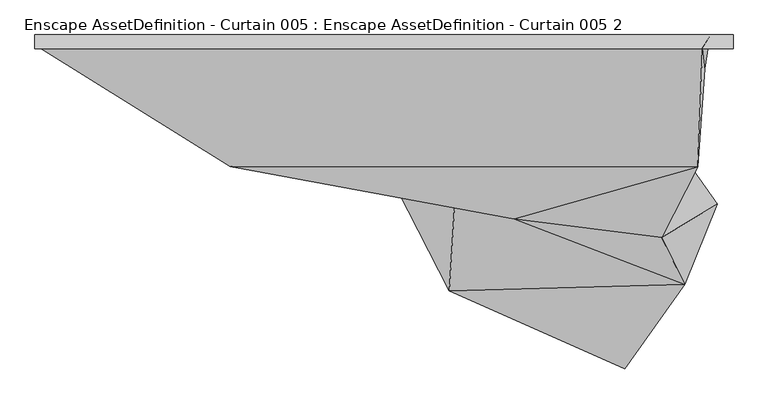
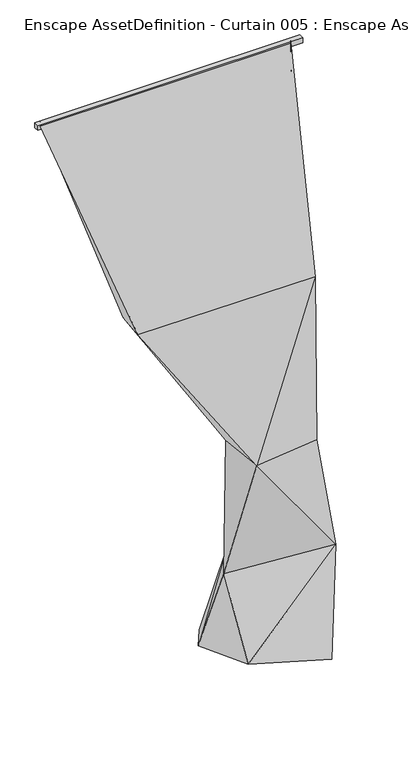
"""IFC4 building model written with IfcOpenShell, lengths in millimetres: geographic element geometry, Enscape AssetDefinition - Curtain 005 : Enscape AssetDefinition - Curtain 005 2."""

from ifc_helpers import new_model, si_unit, origin, place, context, project, spatial, triangles, source, transform, mapped, element, save


def enscape_assetdefinition_curtain_005_enscape_assetdefinition_7c1d9668(model_context):
    return source(origin(), model_context, "Body", "Tessellation", [
        triangles([(10.5911515, -381.2097982, 0.0001014), (365.2563752, -515.6965384, 1363.279723), (203.8854838, -371.7660796, 489.5501693), (380.5031553, -111.298003, 480.332527), (105.5091667, -228.3690911, 0.0001014), (410.2852037, -337.2499815, 0.0001014), (933.2197815, -474.562603, 636.9538536), (777.5139513, -568.0174001, 1451.4602417), (342.7682857, -153.8939858, 1349.3337719), (816.015671, -307.992029, 1449.8325794), (841.9063871, -699.721534, 695.6191681), (878.6032751, -369.9957298, 2570.0315002), (891.7764536, -37.5198256, 4195.8232521), (898.31479, -94.5129356, 2560.8137489), (911.5875263, -5.924891, 4195.8232521), (-941.7821949, -5.924891, 4195.8232521), (-410.0674118, -151.467744, 2567.3037598), (-961.5935583, -37.5198256, 4195.8232521), (-429.9786964, -369.2442132, 2576.5218018), (674.4212614, -935.6376572, 0.0001014), (182.7743088, -717.5035154, 0.0001014), (757.1194839, -724.8400589, 0.0001014), (-977.0554052, -38.5390039, 4161.2175156), (977.4649733, -38.539072, 4200.000032), (-977.0554052, -0.4621512, 4199.99916), (-977.0554052, -0.4621512, 4161.2175156), (977.4649733, -0.4621512, 4161.2178062), (977.4649733, -0.4621512, 4200.000032), (-977.0554052, -38.5390039, 4199.99916), (977.4649733, -38.539072, 4161.2178062)], [[28, 27, 26], [24, 28, 25], [30, 24, 29], [27, 30, 23], [26, 23, 29], [27, 28, 24], [28, 26, 25], [24, 25, 29], [30, 29, 23], [27, 23, 26], [26, 29, 25], [27, 24, 30], [22, 20, 21], [21, 20, 11], [22, 11, 20], [15, 16, 18], [15, 18, 13], [13, 18, 19], [16, 19, 18], [16, 17, 19], [15, 17, 16], [17, 2, 19], [15, 14, 17], [14, 15, 13], [12, 19, 2], [14, 13, 12], [12, 13, 19], [11, 8, 2], [8, 12, 2], [10, 14, 12], [10, 12, 8], [9, 17, 14], [17, 9, 2], [9, 14, 10], [7, 10, 8], [22, 7, 11], [10, 7, 9], [7, 8, 11], [7, 22, 6], [6, 22, 21], [21, 5, 6], [7, 4, 9], [4, 7, 6], [5, 4, 6], [9, 4, 3], [21, 11, 3], [9, 3, 2], [11, 2, 3], [4, 5, 1], [4, 1, 3], [5, 21, 1], [1, 21, 3]]),
    ])


if __name__ == "__main__":
    model = new_model("IFC4")
    model_context = context("Model", 3, world=origin())
    ifc_project = project(units=[si_unit("LENGTHUNIT", "METRE", prefix="MILLI")], contexts=[model_context])
    site = spatial("IfcSite", under=ifc_project)
    building = spatial("IfcBuilding", under=site)
    placement = place(None, origin())
    enscape_assetdefinition_curtain_005_enscape_assetdefinition_shape = enscape_assetdefinition_curtain_005_enscape_assetdefinition_7c1d9668(model_context)
    element("IfcGeographicElement", 1, ObjectType="Enscape AssetDefinition - Curtain 005 : Enscape AssetDefinition - Curtain 005 2", at=placement, inside=building, context=model_context, shape_type="MappedRepresentation", body=[
        mapped(enscape_assetdefinition_curtain_005_enscape_assetdefinition_shape, transform((0.0, 0.0, 0.0), x_axis=(1.0, 0.0, 0.0), y_axis=(0.0, 1.0, 0.0), z_axis=(0.0, 0.0, 1.0))),
    ])
    save(model, "model.ifc")
